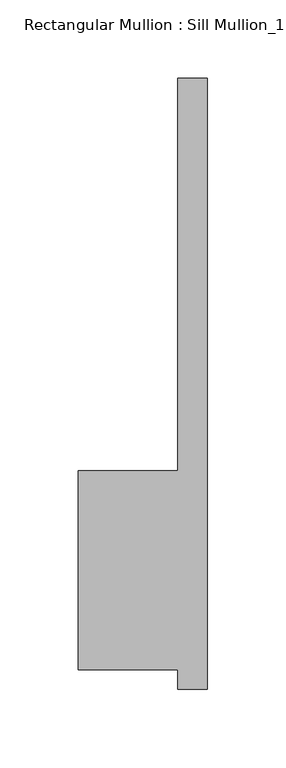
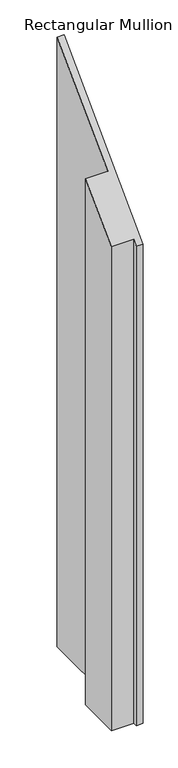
"""IFC4 building model written with IfcOpenShell, lengths in millimetres: member geometry."""

from ifc_helpers import new_model, si_unit, origin, place, context, project, spatial, faceted_brep, source, transform, mapped, element, save


def member_a1e3ed0c(model_context):
    return source(origin(), model_context, "Body", "Brep", [
        faceted_brep([(-82.55, 50.8, -1527.175), (-19.05, 50.8, -1527.175), (-19.05, 301.625, -1527.175), (0.0, 301.625, -1527.175), (0.0, -88.9, -1527.175), (-19.05, -88.9, -1527.175), (-19.05, -76.2, -1527.175), (-82.55, -76.2, -1527.175), (-82.55, -76.2, -76.2), (-82.55, 50.8, 50.8), (-19.05, -76.2, -76.2), (-19.05, -88.9, -88.9), (0.0, -88.9, -88.9), (0.0, 301.625, 301.625), (-19.05, 301.625, 301.625), (-19.05, 50.8, 50.8)], [[[0, 1, 2, 3, 4, 5, 6, 7]], [[8, 9, 0, 7]], [[10, 8, 7, 6]], [[11, 10, 6, 5]], [[12, 11, 5, 4]], [[13, 12, 4, 3]], [[14, 13, 3, 2]], [[15, 14, 2, 1]], [[9, 15, 1, 0]], [[9, 8, 10, 11, 12, 13, 14, 15]]]),
    ])


if __name__ == "__main__":
    model = new_model("IFC4")
    model_context = context("Model", 3, world=origin())
    ifc_project = project(units=[si_unit("LENGTHUNIT", "METRE", prefix="MILLI")], contexts=[model_context])
    site = spatial("IfcSite", under=ifc_project)
    building = spatial("IfcBuilding", under=site)
    placement = place(None, origin())
    member_shape = member_a1e3ed0c(model_context)
    element("IfcMember", 1, ObjectType="Rectangular Mullion : Sill Mullion_15\" thick wall", at=placement, inside=building, context=model_context, shape_type="MappedRepresentation", body=[
        mapped(member_shape, transform((0.0, 0.0, 0.0), x_axis=(1.0, 0.0, 0.0), y_axis=(0.0, 1.0, 0.0), z_axis=(0.0, 0.0, 1.0))),
    ])
    save(model, "model.ifc")
